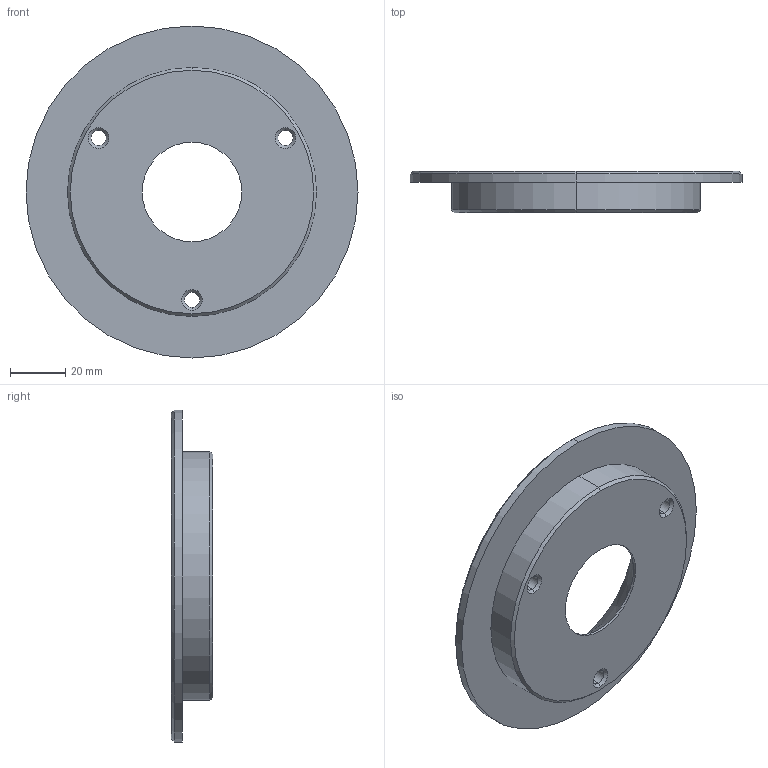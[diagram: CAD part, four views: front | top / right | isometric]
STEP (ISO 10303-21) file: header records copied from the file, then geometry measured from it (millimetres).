
FILE_DESCRIPTION (( 'STEP AP214' ), '1' );
FILE_NAME ('BR1000-120x15.STEP', '2020-02-05T12:22:07', ( 'August' ), ( '' ), 'SwSTEP 2.0', 'SolidWorks 2018', '' );
FILE_SCHEMA (( 'AUTOMOTIVE_DESIGN' ));
Length unit declared in the file: millimetre
Products named in the file (1): BR1000-120x15
Bounding box: 120 x 15 x 120 mm (x, y, z)
Volume: 83741.3 mm3; surface area: 26604.1 mm2
Topology: 1 solids, 1 shells, 42 faces, 90 edges, 54 vertices
Faces by surface type: cone 18, cylinder 18, plane 6
Entity records: 1194 total; most frequent: DIRECTION 230, CARTESIAN_POINT 187, ORIENTED_EDGE 180, AXIS2_PLACEMENT_3D 97, EDGE_CURVE 90, EDGE_LOOP 54, VERTEX_POINT 54, CIRCLE 54
